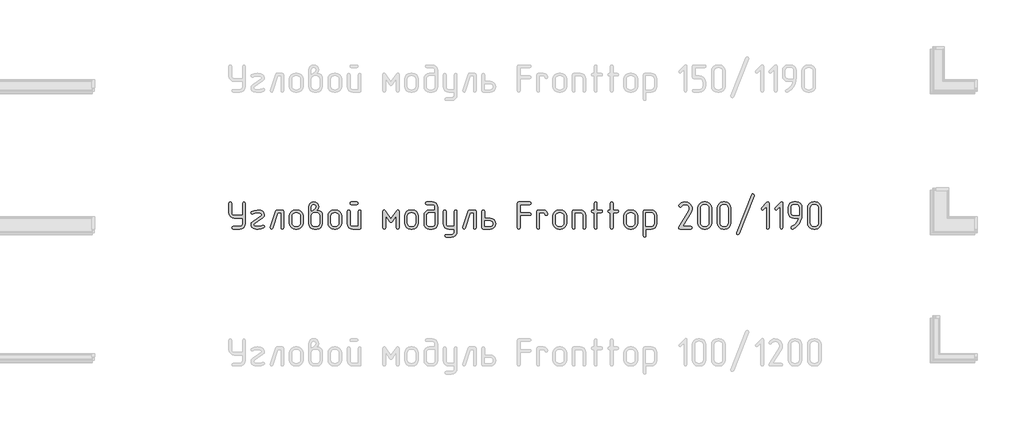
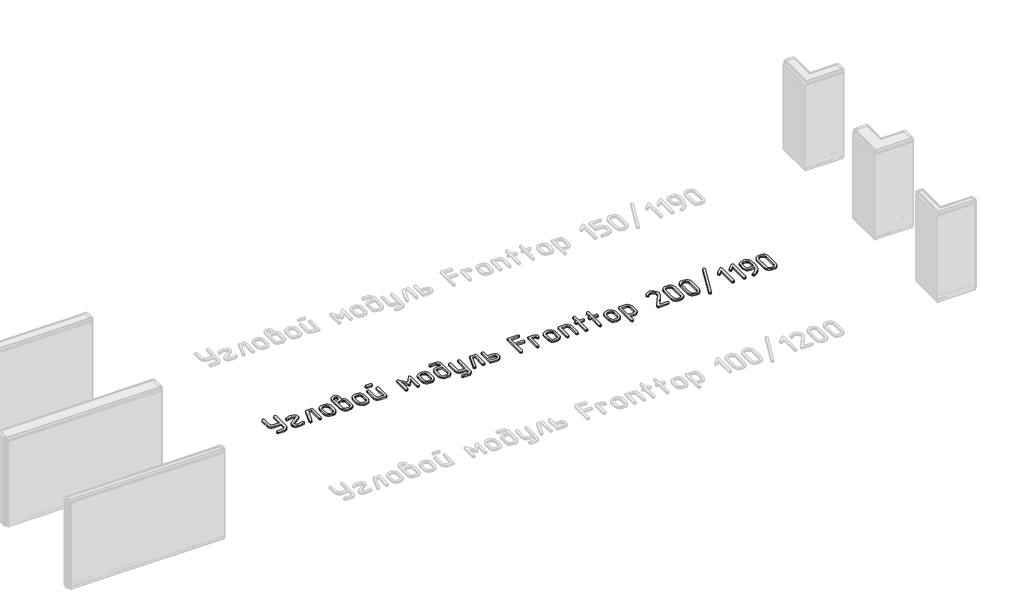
# One storey, part 27 of 37: 1 proxy.
"""IFC4 building model written with IfcOpenShell, lengths in millimetres."""

import ifcopenshell
import ifcopenshell.guid

model = None  # the IFC model being written
_history = None  # IfcOwnerHistory: only IFC2X3 demands one
_inside = {}  # id of a spatial element -> (the spatial element, [elements in it])
_under = {}  # id of a project, library or spatial element -> (it, [spatial elements below it])
_declared = {}  # id of a project -> (the project, [libraries it declares])
_typed = {}  # id of a type object -> (the type object, [elements of that type])
_made_of = {}  # id of a material, layer set ... -> (it, [elements and type objects made of it])


def new_model(schema):
    """Start an empty IFC model of exactly this schema.

    Asked for "IFC4X3", IfcOpenShell would pick the latest addendum, in which some entities
    have other attributes; the version numbers below select the first issue.
    IFC2X3 requires an IfcOwnerHistory on every rooted entity: one is made here for all.
    """
    global model, _history
    if schema == "IFC4X3":
        model = ifcopenshell.file(schema_version=(4, 3, 0, 0))
    else:
        model = ifcopenshell.file(schema=schema)
    _inside.clear()
    _under.clear()
    _declared.clear()
    _typed.clear()
    _made_of.clear()
    _history = None
    if model.schema == "IFC2X3":
        org = make("IfcOrganization", Name="unknown")
        user = make(
            "IfcPersonAndOrganization",
            ThePerson=make("IfcPerson", FamilyName="unknown"),
            TheOrganization=org,
        )
        app = make(
            "IfcApplication",
            ApplicationDeveloper=org,
            Version="unknown",
            ApplicationFullName="unknown",
            ApplicationIdentifier="unknown",
        )
        _history = make(
            "IfcOwnerHistory",
            OwningUser=user,
            OwningApplication=app,
            ChangeAction="ADDED",
            CreationDate=0,
        )
    return model


def make(cls, **values):
    """One entity of the class cls with the attributes given. An attribute that is None is left unset."""
    return model.create_entity(
        cls, **{name: value for name, value in values.items() if value is not None}
    )


def rooted(cls, **values):
    """An entity with a GlobalId (a new one), such as an element, a storey or a relation."""
    return make(cls, GlobalId=ifcopenshell.guid.new(), OwnerHistory=_history, **values)


def si_unit(unit_type, name, prefix=None):
    """IfcSIUnit, for example si_unit("LENGTHUNIT", "METRE", prefix="MILLI")."""
    return make("IfcSIUnit", UnitType=unit_type, Prefix=prefix, Name=name)


def assignment(units):
    """IfcUnitAssignment: the units of a project."""
    return None if units is None else make("IfcUnitAssignment", Units=units)


def point(xyz):
    """IfcCartesianPoint."""
    return None if xyz is None else make("IfcCartesianPoint", Coordinates=xyz)


def direction(xyz):
    """IfcDirection."""
    return None if xyz is None else make("IfcDirection", DirectionRatios=xyz)


def frame(location, z_axis=None, x_axis=None):
    """IfcAxis2Placement3D, a coordinate frame: its origin and axes. An axis left out is left unset."""
    return make(
        "IfcAxis2Placement3D",
        Location=point(location),
        Axis=direction(z_axis),
        RefDirection=direction(x_axis),
    )


def origin():
    """The frame at (0, 0, 0) with its axes left unset."""
    return frame((0.0, 0.0, 0.0))


def origin_with_axes():
    """The frame at (0, 0, 0) with the z axis (0, 0, 1) and the x axis (1, 0, 0) written out."""
    return frame((0.0, 0.0, 0.0), z_axis=(0.0, 0.0, 1.0), x_axis=(1.0, 0.0, 0.0))


def place(relative_to, where):
    """IfcLocalPlacement: puts the frame where relative to a parent placement (None: the world)."""
    return make(
        "IfcLocalPlacement", PlacementRelTo=relative_to, RelativePlacement=where
    )


def context(
    kind, dimensions, precision=None, world=None, true_north=None, identifier=None
):
    """IfcGeometricRepresentationContext, for example the 3D "Model" context."""
    return make(
        "IfcGeometricRepresentationContext",
        ContextIdentifier=identifier,
        ContextType=kind,
        CoordinateSpaceDimension=dimensions,
        Precision=precision,
        WorldCoordinateSystem=world,
        TrueNorth=true_north,
    )


def project(units=None, contexts=None):
    """IfcProject with its units and contexts."""
    return rooted(
        "IfcProject",
        Name="project",
        RepresentationContexts=contexts,
        UnitsInContext=assignment(units),
    )


def spatial(cls, under=None, at=None, **own):
    """A site, building, storey or space (cls), placed at a placement, below another one or the project."""
    s = rooted(cls, ObjectPlacement=at, **own)
    if under is not None:
        _under.setdefault(under.id(), (under, []))[1].append(s)
    return s


def polyline(points):
    """IfcPolyline through the points."""
    return make("IfcPolyline", Points=[point(p) for p in points])


def outline(outer, holes=None, kind="AREA"):
    """IfcArbitraryClosedProfileDef: a profile drawn as a closed curve; with holes, ...WithVoids."""
    if holes is None:
        return make("IfcArbitraryClosedProfileDef", ProfileType=kind, OuterCurve=outer)
    return make(
        "IfcArbitraryProfileDefWithVoids",
        ProfileType=kind,
        OuterCurve=outer,
        InnerCurves=holes,
    )


def extrude(swept, where, along, depth):
    """IfcExtrudedAreaSolid: the profile swept, set in the frame where, extruded along a direction by depth."""
    return make(
        "IfcExtrudedAreaSolid",
        SweptArea=swept,
        Position=where,
        ExtrudedDirection=direction(along),
        Depth=depth,
    )


def shape(context_of_items, identifier, shape_type, items):
    """IfcShapeRepresentation: the items that make up one representation, for example the "Body"."""
    return make(
        "IfcShapeRepresentation",
        ContextOfItems=context_of_items,
        RepresentationIdentifier=identifier,
        RepresentationType=shape_type,
        Items=items,
    )


def made_of(thing, what):
    """Note that an element or type object is made of a material, layer set ...; save() writes the relation."""
    if what is not None:
        _made_of.setdefault(what.id(), (what, []))[1].append(thing)
    return thing


def element(
    cls,
    number,
    at=None,
    inside=None,
    cuts=None,
    type_object=None,
    material=None,
    context=None,
    identifier="Body",
    shape_type=None,
    held_by="IfcProductDefinitionShape",
    body=None,
    shapes=None,
    **own,
):
    """One element of the class cls, such as IfcWall. Its Tag is "e" and its number.

    at: its placement. inside: the storey or other place that contains it. cuts: it is an
    opening in that element (IfcRelVoidsElement). A single representation is given by context,
    identifier, shape_type and body (its items); several are given by shapes. held_by: the class
    of the entity that holds the representations. save() writes the other relations.
    """
    e = rooted(cls, Tag="e%d" % number, ObjectPlacement=at, **own)
    if body is not None:
        shapes = [shape(context, identifier, shape_type, body)]
    if shapes is not None:
        e.Representation = make(held_by, Representations=shapes)
    if inside is not None:
        _inside.setdefault(inside.id(), (inside, []))[1].append(e)
    if cuts is not None:
        rooted(
            "IfcRelVoidsElement", RelatingBuildingElement=cuts, RelatedOpeningElement=e
        )
    if type_object is not None:
        _typed.setdefault(type_object.id(), (type_object, []))[1].append(e)
    return made_of(e, material)


def aggregate(whole, parts):
    """IfcRelAggregates: a whole, such as a stair, and the parts it consists of."""
    return rooted("IfcRelAggregates", RelatingObject=whole, RelatedObjects=parts)


def save(model, path):
    """Write the relations noted so far, then the file.

    IfcRelAggregates (storeys below a building ...), IfcRelContainedInSpatialStructure (elements
    in a storey), IfcRelDefinesByType, IfcRelAssociatesMaterial and IfcRelDeclares: one each for
    every whole, place, type object, material and project.
    """
    for whole, parts in _under.values():
        aggregate(whole, parts)
    for where, things in _inside.values():
        rooted(
            "IfcRelContainedInSpatialStructure",
            RelatedElements=things,
            RelatingStructure=where,
        )
    for kind, things in _typed.values():
        rooted("IfcRelDefinesByType", RelatedObjects=things, RelatingType=kind)
    for what, things in _made_of.values():
        rooted("IfcRelAssociatesMaterial", RelatedObjects=things, RelatingMaterial=what)
    for by, libraries in _declared.values():
        rooted("IfcRelDeclares", RelatingContext=by, RelatedDefinitions=libraries)
    model.write(path)


model = new_model("IFC4")

# Units and contexts
model_context = context("Model", 3, world=origin())
ifc_project = project(units=[si_unit("LENGTHUNIT", "METRE", prefix="MILLI")], contexts=[model_context])

# Site, building, storey
site = spatial("IfcSite", under=ifc_project)
building = spatial("IfcBuilding", under=site)
storey = spatial("IfcBuildingStorey", under=building, Name="Этаж 01", Elevation=0.0)

# Proxy
placement = place(None, origin())
element("IfcBuildingElementProxy", 1, Name="300 мм ГОСТ 2.304", ObjectType="300 мм ГОСТ 2.304", at=placement, inside=storey, context=model_context, shape_type="SweptSolid", body=[
    extrude(outline(polyline([(64282.5947081, -29608.7261154), (64192.9398643, -29608.7261154), (64169.869135, -29604.3522505), (64150.5152523, -29591.2306559), (64137.3936577, -29571.8767732), (64133.0197928, -29548.8060439), (64133.0197928, -29444.2838139), (64137.4124296, -29433.1332743), (64148.3377058, -29428.9659009), (64158.6247356, -29432.9080109), (64163.205092, -29444.2838139), (64163.205092, -29548.8060439), (64165.3357086, -29560.4540402), (64171.7275583, -29570.0183499), (64181.2918679, -29576.4101996), (64192.9398643, -29578.5408162), (64282.5947081, -29578.5408162), (64282.5947081, -29444.2838139), (64286.949801, -29433.1332743), (64297.4620942, -29428.9659009), (64307.9368436, -29432.9080109), (64312.3294804, -29444.2838139), (64312.3294804, -29668.19566), (64307.9556155, -29691.6042844), (64294.8340209, -29711.0707988), (64275.8180333, -29723.8544983), (64252.8599358, -29728.1157314), (64178.0724781, -29728.1157314), (64167.147202, -29723.7606385), (64163.205092, -29713.2483453), (64166.9219385, -29702.736052), (64178.0724781, -29698.3809591), (64252.8599358, -29698.3809591), (64264.2263528, -29696.1940267), (64273.8469783, -29689.6332294), (64280.4077756, -29679.8999722), (64282.5947081, -29668.19566), (64282.5947081, -29608.7261154)])), origin_with_axes(), (0.0, 0.0, 1.0), 20.0),
    extrude(outline(polyline([(64514.9914765, -29714.524838), (64485.4444237, -29725.0746752), (64451.6173658, -29728.5662583), (64430.8180428, -29727.4774851), (64413.0973199, -29724.5866044), (64396.8408093, -29719.4524755), (64384.8643037, -29709.3062353), (64377.4869265, -29695.6496401), (64375.0278008, -29679.984446), (64378.9699108, -29660.7619669), (64391.2467675, -29644.618088), (64486.5331969, -29578.991343), (64491.4139045, -29569.8306304), (64487.5844263, -29560.4071103), (64476.0959915, -29554.0621905), (64442.3815653, -29549.7070976), (64416.2510079, -29552.4290307), (64397.32888, -29560.5948299), (64388.1681673, -29564.1239569), (64377.693418, -29559.5436005), (64373.3007812, -29548.355517), (64379.4579815, -29537.0172579), (64408.0664367, -29524.777945), (64445.0096386, -29520.4228521), (64450.2657853, -29520.4228521), (64479.1370478, -29523.9144352), (64501.85111, -29533.7509382), (64516.7184961, -29549.0313073), (64521.9746427, -29568.9295767), (64517.7134096, -29586.6315276), (64504.9297101, -29602.193476), (64409.5681929, -29668.19566), (64404.3871341, -29679.6090069), (64408.1039806, -29689.8584928), (64417.9029396, -29695.7528858), (64434.3096259, -29697.5174493), (64451.9928049, -29698.3809591), (64478.4612575, -29696.2034127), (64501.0251441, -29687.8686659), (64508.4588371, -29686.1416463), (64519.1588499, -29690.7220026), (64523.3262233, -29701.9100861), (64521.2425366, -29709.1936036), (64514.9914765, -29714.524838)])), origin_with_axes(), (0.0, 0.0, 1.0), 20.0),
    extrude(outline(polyline([(64734.3229662, -29713.2483453), (64730.1555928, -29724.3988849), (64719.45558, -29728.1157314), (64708.9432868, -29724.1736215), (64704.5881939, -29713.2483453), (64704.5881939, -29548.8060439), (64670.0478018, -29548.8060439), (64614.0322964, -29718.0539651), (64608.5884303, -29725.4876581), (64600.5164908, -29728.1157314), (64589.7789341, -29724.1736215), (64585.1985778, -29713.6988721), (64586.0996315, -29708.4427255), (64645.1186493, -29529.133038), (64650.4498837, -29521.5867132), (64659.5355086, -29519.0712716), (64719.45558, -29519.0712716), (64730.6061197, -29522.7881181), (64734.3229662, -29533.9386577), (64734.3229662, -29713.2483453)])), origin_with_axes(), (0.0, 0.0, 1.0), 20.0),
    extrude(outline(polyline([(64945.7702359, -29662.4889865), (64940.9646162, -29687.9812976), (64926.5477569, -29709.3437792), (64905.5231704, -29723.4227434), (64880.143491, -29728.1157314), (64862.1975047, -29728.1157314), (64836.7615094, -29723.4227434), (64815.4177998, -29709.3437792), (64801.0009405, -29687.9812976), (64796.1953207, -29662.4889865), (64796.1953207, -29584.6980165), (64801.0009405, -29559.5436005), (64815.4177998, -29538.2937506), (64837.1744924, -29523.8768913), (64862.1975047, -29519.0712716), (64880.143491, -29519.0712716), (64905.288521, -29523.8862773), (64926.510213, -29538.3312945), (64940.9552302, -29559.5529865), (64945.7702359, -29584.6980165), (64945.7702359, -29662.4889865)]), holes=[polyline([(64916.0354636, -29662.4889865), (64916.0354636, -29584.6980165), (64913.4073903, -29570.9194036), (64905.5231704, -29559.3183371), (64893.9221039, -29551.4341172), (64880.143491, -29548.8060439), (64862.1975047, -29548.8060439), (64848.4282777, -29551.4341172), (64836.8553692, -29559.3183371), (64828.9993072, -29570.9194036), (64826.3806199, -29584.6980165), (64826.3806199, -29662.4889865), (64828.9993072, -29676.2675994), (64836.8553692, -29687.8686659), (64848.4282777, -29695.7528858), (64862.1975047, -29698.3809591), (64880.143491, -29698.3809591), (64893.9221039, -29695.7528858), (64905.5231704, -29687.8686659), (64913.4073903, -29676.2675994), (64916.0354636, -29662.4889865)])]), origin_with_axes(), (0.0, 0.0, 1.0), 20.0),
    extrude(outline(polyline([(65097.2974342, -29519.9723253), (65122.7897453, -29524.2335584), (65142.3501195, -29537.0172579), (65153.5006592, -29555.057104), (65157.2175057, -29578.5408162), (65157.2175057, -29668.19566), (65152.8436408, -29691.6042844), (65139.7220462, -29711.0707988), (65120.5934269, -29723.8544983), (65097.2974342, -29728.1157314), (65067.5626619, -29728.1157314), (65044.4919326, -29723.8544983), (65025.1380499, -29711.0707988), (65012.0164553, -29691.6042844), (65007.6425905, -29668.19566), (65007.6425905, -29483.2543867), (65011.9038236, -29460.3901489), (65024.6875231, -29442.5567943), (65041.4133325, -29432.3636243), (65061.8559884, -29428.9659009), (65081.9607493, -29432.3636243), (65098.573927, -29442.5567943), (65111.0760472, -29460.2775172), (65115.2434206, -29482.8038599), (65111.0760472, -29504.8421318), (65097.2974342, -29519.9723253)]), holes=[polyline([(65127.4827334, -29668.19566), (65127.4827334, -29578.5408162), (65125.295801, -29567.1743991), (65118.7350037, -29557.5537736), (65109.0017464, -29550.9929763), (65097.2974342, -29548.8060439), (65067.5626619, -29548.8060439), (65055.9146656, -29550.9929763), (65046.3503559, -29557.5537736), (65039.9585062, -29567.1743991), (65037.8278896, -29578.5408162), (65037.8278896, -29668.19566), (65039.9585062, -29679.8999722), (65046.3503559, -29689.6332294), (65055.9146656, -29696.1940267), (65067.5626619, -29698.3809591), (65097.2974342, -29698.3809591), (65109.0017464, -29696.1940267), (65118.7350037, -29689.6332294), (65125.295801, -29679.8999722), (65127.4827334, -29668.19566)]), polyline([(65037.8278896, -29529.133038), (65044.8110558, -29525.0032085), (65050.0672025, -29521.248818), (65060.1289688, -29514.0403884), (65067.5626619, -29508.5589783), (65079.8019748, -29497.671246), (65085.5086482, -29483.2543867), (65083.7065408, -29473.1644624), (65078.3002186, -29465.7213834), (65070.4723145, -29461.1316411), (65061.4054616, -29459.601727), (65052.4512404, -29461.1316411), (65044.8110558, -29465.7213834), (65039.5736812, -29473.1644624), (65037.8278896, -29483.2543867), (65037.8278896, -29529.133038)])]), origin_with_axes(), (0.0, 0.0, 1.0), 20.0),
    extrude(outline(polyline([(65368.6647755, -29662.4889865), (65363.8591557, -29687.9812976), (65349.4422964, -29709.3437792), (65328.4177099, -29723.4227434), (65303.0380305, -29728.1157314), (65285.0920442, -29728.1157314), (65259.6560489, -29723.4227434), (65238.3123393, -29709.3437792), (65223.89548, -29687.9812976), (65219.0898602, -29662.4889865), (65219.0898602, -29584.6980165), (65223.89548, -29559.5436005), (65238.3123393, -29538.2937506), (65260.0690319, -29523.8768913), (65285.0920442, -29519.0712716), (65303.0380305, -29519.0712716), (65328.1830605, -29523.8862773), (65349.4047525, -29538.3312945), (65363.8497697, -29559.5529865), (65368.6647755, -29584.6980165), (65368.6647755, -29662.4889865)]), holes=[polyline([(65338.9300032, -29662.4889865), (65338.9300032, -29584.6980165), (65336.3019298, -29570.9194036), (65328.4177099, -29559.3183371), (65316.8166434, -29551.4341172), (65303.0380305, -29548.8060439), (65285.0920442, -29548.8060439), (65271.3228172, -29551.4341172), (65259.7499087, -29559.3183371), (65251.8938467, -29570.9194036), (65249.2751594, -29584.6980165), (65249.2751594, -29662.4889865), (65251.8938467, -29676.2675994), (65259.7499087, -29687.8686659), (65271.3228172, -29695.7528858), (65285.0920442, -29698.3809591), (65303.0380305, -29698.3809591), (65316.8166434, -29695.7528858), (65328.4177099, -29687.8686659), (65336.3019298, -29676.2675994), (65338.9300032, -29662.4889865)])]), origin_with_axes(), (0.0, 0.0, 1.0), 20.0),
    extrude(outline(polyline([(65535.5098868, -29459.1512001), (65475.5898153, -29459.1512001), (65464.6645391, -29454.7961072), (65460.7224291, -29444.2838139), (65464.4392757, -29433.5838012), (65475.5898153, -29428.9659009), (65535.5098868, -29428.9659009), (65546.6604264, -29433.3585378), (65550.3772729, -29444.2838139), (65546.4351629, -29454.5708438), (65535.5098868, -29459.1512001)])), origin_with_axes(), (0.0, 0.0, 1.0), 20.0),
    extrude(outline(polyline([(65580.1120452, -29713.2483453), (65576.3951987, -29724.3988849), (65565.2446591, -29728.1157314), (65490.4572014, -29728.1157314), (65467.3864722, -29723.8544983), (65448.0325894, -29711.0707988), (65434.9109948, -29691.6042844), (65430.53713, -29668.19566), (65430.53713, -29533.9386577), (65434.9297668, -29523.0133815), (65445.855043, -29519.0712716), (65456.1420728, -29522.7881181), (65460.7224291, -29533.9386577), (65460.7224291, -29668.19566), (65462.8530457, -29679.8999722), (65469.2448954, -29689.6332294), (65478.8092051, -29696.1940267), (65490.4572014, -29698.3809591), (65550.3772729, -29698.3809591), (65550.3772729, -29533.9386577), (65554.7323658, -29523.0133815), (65565.2446591, -29519.0712716), (65575.7194084, -29522.7881181), (65580.1120452, -29533.9386577), (65580.1120452, -29713.2483453)])), origin_with_axes(), (0.0, 0.0, 1.0), 20.0),
    extrude(outline(polyline([(65999.1020187, -29713.2483453), (65994.7093818, -29724.1736215), (65984.2346325, -29728.1157314), (65973.4970758, -29724.3988849), (65969.3672464, -29713.2483453), (65969.3672464, -29580.2678358), (65921.6864877, -29647.2461613), (65915.5480594, -29653.1030104), (65909.4471749, -29655.0552934), (65903.121027, -29653.1030104), (65897.207862, -29647.2461613), (65849.9776303, -29580.2678358), (65849.9776303, -29713.2483453), (65845.3972739, -29724.1736215), (65835.1102441, -29728.1157314), (65823.9597045, -29724.3988849), (65819.7923311, -29713.2483453), (65819.7923311, -29533.9386577), (65823.5091776, -29521.0235546), (65832.9326977, -29516.4431983), (65840.666742, -29518.6395167), (65847.349557, -29525.2284719), (65909.4471749, -29612.6306814), (65971.9953197, -29525.2284719), (65978.7532225, -29518.6395167), (65985.9616521, -29516.4431983), (65995.3851721, -29521.0235546), (65999.1020187, -29533.9386577), (65999.1020187, -29713.2483453)])), origin_with_axes(), (0.0, 0.0, 1.0), 20.0),
    extrude(outline(polyline([(66209.6482347, -29662.4889865), (66204.8426149, -29687.9812976), (66190.4257556, -29709.3437792), (66169.4011692, -29723.4227434), (66144.0214898, -29728.1157314), (66126.0755035, -29728.1157314), (66100.6395082, -29723.4227434), (66079.2957985, -29709.3437792), (66064.8789392, -29687.9812976), (66060.0733195, -29662.4889865), (66060.0733195, -29584.6980165), (66064.8789392, -29559.5436005), (66079.2957985, -29538.2937506), (66101.0524911, -29523.8768913), (66126.0755035, -29519.0712716), (66144.0214898, -29519.0712716), (66169.1665198, -29523.8862773), (66190.3882117, -29538.3312945), (66204.833229, -29559.5529865), (66209.6482347, -29584.6980165), (66209.6482347, -29662.4889865)]), holes=[polyline([(66179.9134624, -29662.4889865), (66179.9134624, -29584.6980165), (66177.2853891, -29570.9194036), (66169.4011692, -29559.3183371), (66157.8001027, -29551.4341172), (66144.0214898, -29548.8060439), (66126.0755035, -29548.8060439), (66112.3062765, -29551.4341172), (66100.733368, -29559.3183371), (66092.877306, -29570.9194036), (66090.2586186, -29584.6980165), (66090.2586186, -29662.4889865), (66092.877306, -29676.2675994), (66100.733368, -29687.8686659), (66112.3062765, -29695.7528858), (66126.0755035, -29698.3809591), (66144.0214898, -29698.3809591), (66157.8001027, -29695.7528858), (66169.4011692, -29687.8686659), (66177.2853891, -29676.2675994), (66179.9134624, -29662.4889865)])]), origin_with_axes(), (0.0, 0.0, 1.0), 20.0),
    extrude(outline(polyline([(66391.3607322, -29519.0712716), (66391.3607322, -29488.8859724), (66389.1737997, -29477.2379761), (66382.6130024, -29467.6736664), (66372.8797452, -29461.2818167), (66361.175433, -29459.1512001), (66301.7058884, -29459.1512001), (66290.7806122, -29454.7961072), (66286.8385022, -29444.2838139), (66290.5553488, -29433.5838012), (66301.7058884, -29428.9659009), (66361.175433, -29428.9659009), (66384.4714257, -29433.3397658), (66403.600045, -29446.4613604), (66416.7216396, -29465.8152431), (66421.0955045, -29488.8859724), (66421.0955045, -29668.19566), (66416.7216396, -29691.6042844), (66403.600045, -29711.0707988), (66384.4714257, -29723.8544983), (66361.175433, -29728.1157314), (66331.4406607, -29728.1157314), (66308.3699314, -29723.8544983), (66289.0160487, -29711.0707988), (66275.8944541, -29691.6042844), (66271.5205892, -29668.19566), (66271.5205892, -29578.5408162), (66275.8944541, -29555.8079821), (66289.0160487, -29536.566731), (66308.3699314, -29523.4451364), (66331.4406607, -29519.0712716), (66391.3607322, -29519.0712716)]), holes=[polyline([(66391.3607322, -29548.8060439), (66331.4406607, -29548.8060439), (66319.7926643, -29550.9929763), (66310.2283547, -29557.5537736), (66303.836505, -29567.1743991), (66301.7058884, -29578.5408162), (66301.7058884, -29668.19566), (66303.836505, -29679.8999722), (66310.2283547, -29689.6332294), (66319.7926643, -29696.1940267), (66331.4406607, -29698.3809591), (66361.175433, -29698.3809591), (66372.8797452, -29696.1940267), (66382.6130024, -29689.6332294), (66389.1737997, -29679.8999722), (66391.3607322, -29668.19566), (66391.3607322, -29548.8060439)])]), origin_with_axes(), (0.0, 0.0, 1.0), 20.0),
    extrude(outline(polyline([(66602.8080019, -29728.1157314), (66542.8879304, -29728.1157314), (66519.8172012, -29723.8544983), (66500.4633184, -29711.0707988), (66487.3417238, -29691.6042844), (66482.967859, -29668.19566), (66482.967859, -29533.9386577), (66487.3604958, -29523.0133815), (66498.285772, -29519.0712716), (66508.5728018, -29522.7881181), (66513.1531581, -29533.9386577), (66513.1531581, -29668.19566), (66515.2837747, -29679.8999722), (66521.6756244, -29689.6332294), (66531.2399341, -29696.1940267), (66542.8879304, -29698.3809591), (66602.8080019, -29698.3809591), (66602.8080019, -29533.9386577), (66607.1630948, -29523.0133815), (66617.6753881, -29519.0712716), (66628.1501374, -29522.7881181), (66632.5427742, -29533.9386577), (66632.5427742, -29757.8505038), (66628.2815411, -29781.1464965), (66615.4978416, -29800.2751158), (66596.0313272, -29813.3967104), (66572.6227028, -29817.7705752), (66513.1531581, -29817.7705752), (66502.2278819, -29813.3779384), (66498.285772, -29802.9031891), (66502.0026185, -29792.3908958), (66513.1531581, -29788.0358029), (66572.6227028, -29788.0358029), (66584.327015, -29785.8488705), (66594.0602722, -29779.2880732), (66600.6210695, -29769.554816), (66602.8080019, -29757.8505038), (66602.8080019, -29728.1157314)])), origin_with_axes(), (0.0, 0.0, 1.0), 20.0),
    extrude(outline(polyline([(66843.990044, -29713.2483453), (66839.8226706, -29724.3988849), (66829.1226578, -29728.1157314), (66818.6103646, -29724.1736215), (66814.2552717, -29713.2483453), (66814.2552717, -29548.8060439), (66779.7148796, -29548.8060439), (66723.6993742, -29718.0539651), (66718.255508, -29725.4876581), (66710.1835686, -29728.1157314), (66699.4460119, -29724.1736215), (66694.8656556, -29713.6988721), (66695.7667093, -29708.4427255), (66754.7857271, -29529.133038), (66760.1169615, -29521.5867132), (66769.2025864, -29519.0712716), (66829.1226578, -29519.0712716), (66840.2731974, -29522.7881181), (66843.990044, -29533.9386577), (66843.990044, -29713.2483453)])), origin_with_axes(), (0.0, 0.0, 1.0), 20.0),
    extrude(outline(polyline([(66936.0476976, -29608.7261154), (66995.5172423, -29608.7261154), (67021.0095534, -29613.3252436), (67040.5699276, -29627.1226285), (67051.7204672, -29645.4628258), (67055.4373137, -29668.19566), (67051.8330989, -29690.9472661), (67041.0204544, -29709.3437792), (67021.1221851, -29723.4227434), (66995.5172423, -29728.1157314), (66921.1803115, -29728.1157314), (66909.6918767, -29724.3988849), (66905.8623985, -29713.2483453), (66905.8623985, -29533.9386577), (66910.2550353, -29523.0133815), (66921.1803115, -29519.0712716), (66931.4673413, -29522.7881181), (66936.0476976, -29533.9386577), (66936.0476976, -29608.7261154)]), holes=[polyline([(66936.0476976, -29638.4608877), (66936.0476976, -29698.3809591), (66995.5172423, -29698.3809591), (67008.3009417, -29696.1377108), (67017.8183215, -29689.407966), (67023.7314864, -29679.6183929), (67025.7025414, -29668.19566), (67023.8441182, -29657.1577521), (67018.2688483, -29647.6216003), (67008.6388369, -29640.7510658), (66995.5172423, -29638.4608877), (66936.0476976, -29638.4608877)])]), origin_with_axes(), (0.0, 0.0, 1.0), 20.0),
    extrude(outline(polyline([(67325.3028988, -29548.355517), (67429.8251287, -29548.355517), (67440.9756683, -29552.5228904), (67444.6925149, -29563.2229032), (67440.7504049, -29573.9604598), (67429.8251287, -29578.5408162), (67325.3028988, -29578.5408162), (67325.3028988, -29713.2483453), (67321.1355254, -29724.3988849), (67310.4355126, -29728.1157314), (67299.697956, -29724.1736215), (67295.1175996, -29713.2483453), (67295.1175996, -29444.2838139), (67298.9470779, -29432.7953792), (67310.4355126, -29428.9659009), (67429.8251287, -29428.9659009), (67440.9756683, -29433.3585378), (67444.6925149, -29444.2838139), (67440.7504049, -29454.5708438), (67429.8251287, -29459.1512001), (67325.3028988, -29459.1512001), (67325.3028988, -29548.355517)])), origin_with_axes(), (0.0, 0.0, 1.0), 20.0),
    extrude(outline(polyline([(67626.4050123, -29563.67343), (67622.2376389, -29574.8239697), (67611.5376262, -29578.5408162), (67600.8000695, -29574.5987062), (67596.2197132, -29563.67343), (67592.0523398, -29553.1986807), (67581.352327, -29548.8060439), (67536.7501685, -29548.8060439), (67536.7501685, -29713.2483453), (67532.5827951, -29724.3988849), (67521.8827824, -29728.1157314), (67511.1452257, -29724.1736215), (67506.5648694, -29713.2483453), (67506.5648694, -29533.9386577), (67510.3943476, -29522.7881181), (67521.8827824, -29519.0712716), (67581.352327, -29519.0712716), (67598.8477865, -29522.5628547), (67613.3021897, -29532.1740942), (67622.9134292, -29546.403234), (67626.4050123, -29563.67343)])), origin_with_axes(), (0.0, 0.0, 1.0), 20.0),
    extrude(outline(polyline([(67833.947716, -29662.4889865), (67829.1420963, -29687.9812976), (67814.7252369, -29709.3437792), (67793.7006505, -29723.4227434), (67768.3209711, -29728.1157314), (67750.3749848, -29728.1157314), (67724.9389895, -29723.4227434), (67703.5952798, -29709.3437792), (67689.1784205, -29687.9812976), (67684.3728008, -29662.4889865), (67684.3728008, -29584.6980165), (67689.1784205, -29559.5436005), (67703.5952798, -29538.2937506), (67725.3519725, -29523.8768913), (67750.3749848, -29519.0712716), (67768.3209711, -29519.0712716), (67793.4660011, -29523.8862773), (67814.687693, -29538.3312945), (67829.1327103, -29559.5529865), (67833.947716, -29584.6980165), (67833.947716, -29662.4889865)]), holes=[polyline([(67804.2129437, -29662.4889865), (67804.2129437, -29584.6980165), (67801.5848704, -29570.9194036), (67793.7006505, -29559.3183371), (67782.099584, -29551.4341172), (67768.3209711, -29548.8060439), (67750.3749848, -29548.8060439), (67736.6057578, -29551.4341172), (67725.0328493, -29559.3183371), (67717.1767873, -29570.9194036), (67714.5580999, -29584.6980165), (67714.5580999, -29662.4889865), (67717.1767873, -29676.2675994), (67725.0328493, -29687.8686659), (67736.6057578, -29695.7528858), (67750.3749848, -29698.3809591), (67768.3209711, -29698.3809591), (67782.099584, -29695.7528858), (67793.7006505, -29687.8686659), (67801.5848704, -29676.2675994), (67804.2129437, -29662.4889865)])]), origin_with_axes(), (0.0, 0.0, 1.0), 20.0),
    extrude(outline(polyline([(68045.3949858, -29713.2483453), (68041.2276124, -29724.3988849), (68030.5275996, -29728.1157314), (68020.0153064, -29724.1736215), (68015.6602135, -29713.2483453), (68015.6602135, -29578.5408162), (68013.473281, -29567.1743991), (68006.9124837, -29557.5537736), (67997.1792265, -29550.9929763), (67985.4749143, -29548.8060439), (67926.0053697, -29548.8060439), (67926.0053697, -29713.2483453), (67921.8379963, -29724.3988849), (67911.1379835, -29728.1157314), (67900.4004269, -29724.1736215), (67895.8200705, -29713.2483453), (67895.8200705, -29533.9386577), (67899.6495488, -29522.7881181), (67911.1379835, -29519.0712716), (67985.4749143, -29519.0712716), (68008.770907, -29523.3325047), (68027.8995263, -29536.1162042), (68041.0211209, -29555.4700869), (68045.3949858, -29578.5408162), (68045.3949858, -29713.2483453)])), origin_with_axes(), (0.0, 0.0, 1.0), 20.0),
    extrude(outline(polyline([(68167.1874117, -29519.0712716), (68212.2400971, -29519.0712716), (68223.3906367, -29523.238645), (68227.1074832, -29533.9386577), (68223.1653733, -29544.2256875), (68212.2400971, -29548.8060439), (68167.1874117, -29548.8060439), (68167.1874117, -29713.2483453), (68163.0200384, -29724.3988849), (68152.3200256, -29728.1157314), (68141.8077324, -29724.1736215), (68137.4526394, -29713.2483453), (68137.4526394, -29548.8060439), (68122.5852533, -29548.8060439), (68111.4347137, -29544.450951), (68107.2673403, -29533.9386577), (68111.2094502, -29523.4639084), (68122.5852533, -29519.0712716), (68137.4526394, -29519.0712716), (68137.4526394, -29444.2838139), (68141.8077324, -29433.1332743), (68152.3200256, -29428.9659009), (68162.7947749, -29432.9080109), (68167.1874117, -29444.2838139), (68167.1874117, -29519.0712716)])), origin_with_axes(), (0.0, 0.0, 1.0), 20.0),
    extrude(outline(polyline([(68344.9953431, -29519.0712716), (68390.0480284, -29519.0712716), (68401.1985681, -29523.238645), (68404.9154146, -29533.9386577), (68400.9733046, -29544.2256875), (68390.0480284, -29548.8060439), (68344.9953431, -29548.8060439), (68344.9953431, -29713.2483453), (68340.8279697, -29724.3988849), (68330.127957, -29728.1157314), (68319.6156637, -29724.1736215), (68315.2605708, -29713.2483453), (68315.2605708, -29548.8060439), (68300.3931847, -29548.8060439), (68289.2426451, -29544.450951), (68285.0752717, -29533.9386577), (68289.0173816, -29523.4639084), (68300.3931847, -29519.0712716), (68315.2605708, -29519.0712716), (68315.2605708, -29444.2838139), (68319.6156637, -29433.1332743), (68330.127957, -29428.9659009), (68340.6027063, -29432.9080109), (68344.9953431, -29444.2838139), (68344.9953431, -29519.0712716)])), origin_with_axes(), (0.0, 0.0, 1.0), 20.0),
    extrude(outline(polyline([(68612.4581183, -29662.4889865), (68607.6524985, -29687.9812976), (68593.2356392, -29709.3437792), (68572.2110527, -29723.4227434), (68546.8313734, -29728.1157314), (68528.885387, -29728.1157314), (68503.4493918, -29723.4227434), (68482.1056821, -29709.3437792), (68467.6888228, -29687.9812976), (68462.883203, -29662.4889865), (68462.883203, -29584.6980165), (68467.6888228, -29559.5436005), (68482.1056821, -29538.2937506), (68503.8623747, -29523.8768913), (68528.885387, -29519.0712716), (68546.8313734, -29519.0712716), (68571.9764033, -29523.8862773), (68593.1980953, -29538.3312945), (68607.6431126, -29559.5529865), (68612.4581183, -29584.6980165), (68612.4581183, -29662.4889865)]), holes=[polyline([(68582.723346, -29662.4889865), (68582.723346, -29584.6980165), (68580.0952727, -29570.9194036), (68572.2110527, -29559.3183371), (68560.6099863, -29551.4341172), (68546.8313734, -29548.8060439), (68528.885387, -29548.8060439), (68515.1161601, -29551.4341172), (68503.5432515, -29559.3183371), (68495.6871895, -29570.9194036), (68493.0685022, -29584.6980165), (68493.0685022, -29662.4889865), (68495.6871895, -29676.2675994), (68503.5432515, -29687.8686659), (68515.1161601, -29695.7528858), (68528.885387, -29698.3809591), (68546.8313734, -29698.3809591), (68560.6099863, -29695.7528858), (68572.2110527, -29687.8686659), (68580.0952727, -29676.2675994), (68582.723346, -29662.4889865)])]), origin_with_axes(), (0.0, 0.0, 1.0), 20.0),
    extrude(outline(polyline([(68704.515772, -29728.1157314), (68704.515772, -29802.9031891), (68700.3483986, -29814.0537287), (68689.6483858, -29817.7705752), (68678.9108291, -29813.8284653), (68674.3304728, -29802.9031891), (68674.3304728, -29533.9386577), (68678.1599511, -29522.7881181), (68689.6483858, -29519.0712716), (68763.9853166, -29519.0712716), (68787.2813093, -29523.3325047), (68806.4099286, -29536.1162042), (68819.5315232, -29555.4700869), (68823.9053881, -29578.5408162), (68823.9053881, -29668.19566), (68819.5315232, -29691.6042844), (68806.4099286, -29711.0707988), (68787.2813093, -29723.8544983), (68763.9853166, -29728.1157314), (68704.515772, -29728.1157314)]), holes=[polyline([(68704.515772, -29698.3809591), (68763.9853166, -29698.3809591), (68775.6896288, -29696.1940267), (68785.422886, -29689.6332294), (68791.9836833, -29679.8999722), (68794.1706157, -29668.19566), (68794.1706157, -29578.5408162), (68791.9836833, -29567.1743991), (68785.422886, -29557.5537736), (68775.6896288, -29550.9929763), (68763.9853166, -29548.8060439), (68704.515772, -29548.8060439), (68704.515772, -29698.3809591)])]), origin_with_axes(), (0.0, 0.0, 1.0), 20.0),
    extrude(outline(polyline([(69202.1977691, -29544.450951), (69105.5597591, -29698.3809591), (69198.293203, -29698.3809591), (69209.4437427, -29702.5483325), (69213.1605892, -29713.2483453), (69209.2184792, -29723.5353751), (69198.293203, -29728.1157314), (69078.9035869, -29728.1157314), (69066.7393619, -29725.1685349), (69062.6846202, -29716.3269455), (69066.2137473, -29704.9135985), (69176.4426507, -29529.133038), (69182.0742363, -29506.8319587), (69178.3573898, -29488.3603577), (69167.2068502, -29473.1926204), (69150.368409, -29462.6615552), (69130.4889116, -29459.1512001), (69118.7939854, -29460.6811142), (69108.1878324, -29465.2708565), (69091.1428998, -29481.9028062), (69086.1307886, -29487.1401809), (69078.9035869, -29488.8859724), (69068.3912937, -29484.7561429), (69063.5856739, -29474.4691131), (69066.2137473, -29466.1343663), (69078.2465686, -29451.1168046), (69093.3204463, -29439.2529308), (69110.3653789, -29431.5376584), (69128.3113652, -29428.9659009), (69160.3363157, -29434.8790659), (69187.3303829, -29452.6185607), (69205.6893522, -29477.9982401), (69210.2790945, -29492.3212397), (69211.8090086, -29507.7330124), (69209.4061988, -29526.5237366), (69202.1977691, -29544.450951)])), origin_with_axes(), (0.0, 0.0, 1.0), 20.0),
    extrude(outline(polyline([(69424.607859, -29662.4889865), (69419.8022392, -29687.9812976), (69405.3853799, -29709.3437792), (69384.3607934, -29723.4227434), (69358.981114, -29728.1157314), (69341.0351277, -29728.1157314), (69315.5991324, -29723.4227434), (69294.2554228, -29709.3437792), (69279.8385635, -29687.9812976), (69275.0329437, -29662.4889865), (69275.0329437, -29495.0431727), (69279.8385635, -29469.8887568), (69294.2554228, -29448.6389069), (69315.786852, -29433.8841524), (69341.0351277, -29428.9659009), (69358.981114, -29428.9659009), (69384.126144, -29433.7809067), (69405.347836, -29448.2259239), (69419.7928532, -29469.5602476), (69424.607859, -29495.0431727), (69424.607859, -29662.4889865)]), holes=[polyline([(69394.8730866, -29662.4889865), (69394.8730866, -29495.0431727), (69392.2450133, -29481.2645598), (69384.3607934, -29469.6634933), (69372.7597269, -29461.7792734), (69358.981114, -29459.1512001), (69341.0351277, -29459.1512001), (69327.2659007, -29461.7792734), (69315.6929922, -29469.6634933), (69307.8369302, -29481.2645598), (69305.2182429, -29495.0431727), (69305.2182429, -29662.4889865), (69307.8369302, -29676.2675994), (69315.6929922, -29687.8686659), (69327.2659007, -29695.7528858), (69341.0351277, -29698.3809591), (69358.981114, -29698.3809591), (69372.7597269, -29695.7528858), (69384.3607934, -29687.8686659), (69392.2450133, -29676.2675994), (69394.8730866, -29662.4889865)])]), origin_with_axes(), (0.0, 0.0, 1.0), 20.0),
    extrude(outline(polyline([(69636.0551287, -29662.4889865), (69631.2495089, -29687.9812976), (69616.8326496, -29709.3437792), (69595.8080632, -29723.4227434), (69570.4283838, -29728.1157314), (69552.4823974, -29728.1157314), (69527.0464022, -29723.4227434), (69505.7026925, -29709.3437792), (69491.2858332, -29687.9812976), (69486.4802135, -29662.4889865), (69486.4802135, -29495.0431727), (69491.2858332, -29469.8887568), (69505.7026925, -29448.6389069), (69527.2341217, -29433.8841524), (69552.4823974, -29428.9659009), (69570.4283838, -29428.9659009), (69595.5734138, -29433.7809067), (69616.7951057, -29448.2259239), (69631.240123, -29469.5602476), (69636.0551287, -29495.0431727), (69636.0551287, -29662.4889865)]), holes=[polyline([(69606.3203564, -29662.4889865), (69606.3203564, -29495.0431727), (69603.6922831, -29481.2645598), (69595.8080632, -29469.6634933), (69584.2069967, -29461.7792734), (69570.4283838, -29459.1512001), (69552.4823974, -29459.1512001), (69538.7131705, -29461.7792734), (69527.140262, -29469.6634933), (69519.2841999, -29481.2645598), (69516.6655126, -29495.0431727), (69516.6655126, -29662.4889865), (69519.2841999, -29676.2675994), (69527.140262, -29687.8686659), (69538.7131705, -29695.7528858), (69552.4823974, -29698.3809591), (69570.4283838, -29698.3809591), (69584.2069967, -29695.7528858), (69595.8080632, -29687.8686659), (69603.6922831, -29676.2675994), (69606.3203564, -29662.4889865)])]), origin_with_axes(), (0.0, 0.0, 1.0), 20.0),
    extrude(outline(polyline([(69891.6540301, -29359.8851168), (69727.2117287, -29778.4245634), (69721.5425991, -29785.4077296), (69713.6959231, -29788.0358029), (69702.733103, -29783.8684295), (69697.9274832, -29773.1684168), (69698.8285369, -29767.4617433), (69863.2708383, -29348.9973845), (69868.9399679, -29341.9391305), (69876.7866439, -29339.3110572), (69887.749464, -29343.703694), (69892.5550838, -29354.1784433), (69891.6540301, -29359.8851168)])), origin_with_axes(), (0.0, 0.0, 1.0), 20.0),
    extrude(outline(polyline([(70056.697034, -29713.2483453), (70052.5296606, -29724.3988849), (70041.8296478, -29728.1157314), (70031.542618, -29724.1736215), (70026.9622616, -29713.2483453), (70026.9622616, -29480.1757866), (69992.4218696, -29514.2656518), (69982.3601032, -29519.0712716), (69971.6225465, -29514.4909152), (69967.0421902, -29503.7533586), (69971.8478099, -29493.3161531), (70031.3173546, -29433.7715207), (70044.4577211, -29427.2388813), (70053.2054508, -29431.6315182), (70056.697034, -29444.2838139), (70056.697034, -29713.2483453)])), origin_with_axes(), (0.0, 0.0, 1.0), 20.0),
    extrude(outline(polyline([(70205.6712467, -29713.2483453), (70201.5038733, -29724.3988849), (70190.8038606, -29728.1157314), (70180.5168308, -29724.1736215), (70175.9364744, -29713.2483453), (70175.9364744, -29480.1757866), (70141.3960823, -29514.2656518), (70131.334316, -29519.0712716), (70120.5967593, -29514.4909152), (70116.016403, -29503.7533586), (70120.8220227, -29493.3161531), (70180.2915673, -29433.7715207), (70193.4319339, -29427.2388813), (70202.1796636, -29431.6315182), (70205.6712467, -29444.2838139), (70205.6712467, -29713.2483453)])), origin_with_axes(), (0.0, 0.0, 1.0), 20.0),
    extrude(outline(polyline([(70379.1240852, -29608.7261154), (70324.9106872, -29608.7261154), (70301.8399579, -29604.3522505), (70282.4860752, -29591.2306559), (70269.3644806, -29571.8767732), (70264.9906157, -29548.8060439), (70264.9906157, -29488.8859724), (70269.3644806, -29465.8152431), (70282.4860752, -29446.4613604), (70301.8399579, -29433.3397658), (70324.9106872, -29428.9659009), (70354.6454595, -29428.9659009), (70377.9414522, -29433.3397658), (70397.0700715, -29446.4613604), (70410.1916661, -29465.8152431), (70414.565531, -29488.8859724), (70414.565531, -29563.2229032), (70410.623421, -29605.347164), (70398.7970911, -29644.1675611), (70384.5397934, -29670.5796979), (70365.3454723, -29693.8006028), (70342.1151814, -29712.8729062), (70315.7499745, -29726.8392387), (70309.5927742, -29728.1157314), (70299.3432883, -29723.3101117), (70295.1759149, -29712.3472916), (70297.3534614, -29704.725879), (70304.3366276, -29699.2820128), (70325.6615653, -29688.0939293), (70344.1331663, -29673.0012797), (70359.3196756, -29654.3231873), (70370.7893384, -29632.3787751), (70375.2195191, -29620.7777087), (70379.1240852, -29608.7261154)]), holes=[polyline([(70383.929705, -29578.1278332), (70384.1549684, -29573.09695), (70384.6054953, -29561.5334275), (70384.8307587, -29536.1162042), (70384.8307587, -29488.8859724), (70382.6438262, -29477.2379761), (70376.0830289, -29467.6736664), (70366.3497717, -29461.2818167), (70354.6454595, -29459.1512001), (70324.9106872, -29459.1512001), (70313.2626909, -29461.2818167), (70303.6983812, -29467.6736664), (70297.3065315, -29477.2379761), (70295.1759149, -29488.8859724), (70295.1759149, -29548.8060439), (70297.3065315, -29560.4540402), (70303.6983812, -29570.0183499), (70313.2626909, -29576.4101996), (70324.9106872, -29578.5408162), (70383.929705, -29578.1278332)])]), origin_with_axes(), (0.0, 0.0, 1.0), 20.0),
    extrude(outline(polyline([(70626.0128007, -29662.4889865), (70621.207181, -29687.9812976), (70606.7903217, -29709.3437792), (70585.7657352, -29723.4227434), (70560.3860558, -29728.1157314), (70542.4400695, -29728.1157314), (70517.0040742, -29723.4227434), (70495.6603646, -29709.3437792), (70481.2435053, -29687.9812976), (70476.4378855, -29662.4889865), (70476.4378855, -29495.0431727), (70481.2435053, -29469.8887568), (70495.6603646, -29448.6389069), (70517.1917937, -29433.8841524), (70542.4400695, -29428.9659009), (70560.3860558, -29428.9659009), (70585.5310858, -29433.7809067), (70606.7527778, -29448.2259239), (70621.197795, -29469.5602476), (70626.0128007, -29495.0431727), (70626.0128007, -29662.4889865)]), holes=[polyline([(70596.2780284, -29662.4889865), (70596.2780284, -29495.0431727), (70593.6499551, -29481.2645598), (70585.7657352, -29469.6634933), (70574.1646687, -29461.7792734), (70560.3860558, -29459.1512001), (70542.4400695, -29459.1512001), (70528.6708425, -29461.7792734), (70517.097934, -29469.6634933), (70509.241872, -29481.2645598), (70506.6231847, -29495.0431727), (70506.6231847, -29662.4889865), (70509.241872, -29676.2675994), (70517.097934, -29687.8686659), (70528.6708425, -29695.7528858), (70542.4400695, -29698.3809591), (70560.3860558, -29698.3809591), (70574.1646687, -29695.7528858), (70585.7657352, -29687.8686659), (70593.6499551, -29676.2675994), (70596.2780284, -29662.4889865)])]), origin_with_axes(), (0.0, 0.0, 1.0), 20.0),
])

save(model, "model.ifc")
